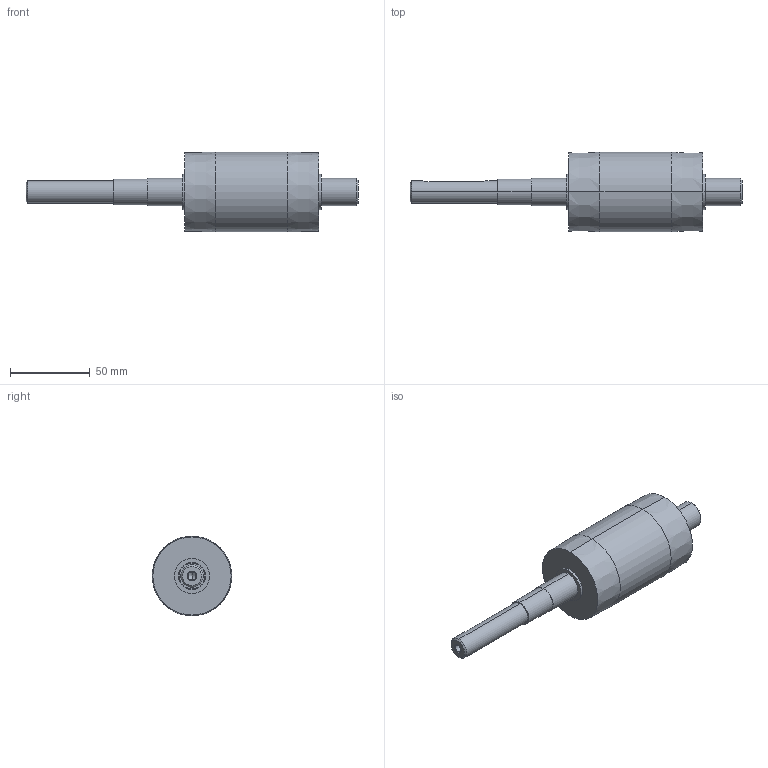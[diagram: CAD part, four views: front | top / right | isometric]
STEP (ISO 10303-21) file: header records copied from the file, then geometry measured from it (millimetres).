
FILE_DESCRIPTION (( 'STEP AP203' ), '1' );
FILE_NAME ('084.815.109-1.STEP', '2013-01-29T13:03:13', ( 'Alusic' ), ( 'Alusic' ), 'SwSTEP 2.0', 'SolidWorks 2011', '' );
FILE_SCHEMA (( 'CONFIG_CONTROL_DESIGN' ));
Length unit declared in the file: millimetre
Products named in the file (1): 084.815.109-1
Bounding box: 208 x 50 x 50 mm (x, y, z)
Volume: 186449.1 mm3; surface area: 23462.4 mm2
Topology: 1 solids, 1 shells, 41 faces, 84 edges, 51 vertices
Faces by surface type: cylinder 18, cone 12, plane 11
Entity records: 1207 total; most frequent: CARTESIAN_POINT 237, DIRECTION 208, ORIENTED_EDGE 164, AXIS2_PLACEMENT_3D 86, EDGE_CURVE 82, VERTEX_POINT 51, EDGE_LOOP 49, CIRCLE 44
